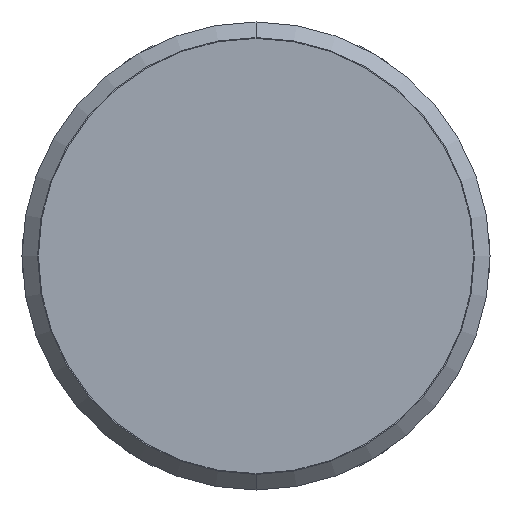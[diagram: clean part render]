
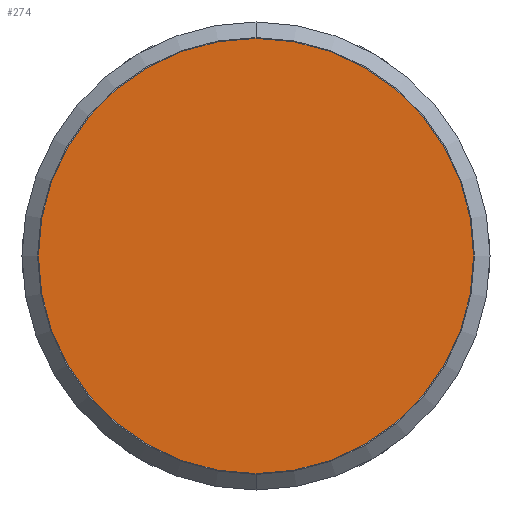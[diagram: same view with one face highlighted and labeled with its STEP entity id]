
A CAD part, front view. The second image highlights one B-rep face of the part: STEP entity #274.
In plain terms, the highlighted planar face has unit normal (0, -1, 0).
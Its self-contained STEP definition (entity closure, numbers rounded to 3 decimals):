
#38 = DIRECTION ( 'NONE',  ( 0., 1., 0. ) ) ;
#274 = ADVANCED_FACE ( 'NONE', ( #668 ), #1176, .F. ) ;
#344 = CARTESIAN_POINT ( 'NONE',  ( 0., 0., 0. ) ) ;
#360 = CIRCLE ( 'NONE', #1359, 13.95 ) ;
#374 = ORIENTED_EDGE ( 'NONE', *, *, #1301, .F. ) ;
#668 = FACE_OUTER_BOUND ( 'NONE', #733, .T. ) ;
#684 = DIRECTION ( 'NONE',  ( 0., 1., 0. ) ) ;
#710 = CIRCLE ( 'NONE', #1971, 13.95 ) ;
#714 = VERTEX_POINT ( 'NONE', #1676 ) ;
#733 = EDGE_LOOP ( 'NONE', ( #1664, #374 ) ) ;
#999 = CARTESIAN_POINT ( 'NONE',  ( 0., 0., 0. ) ) ;
#1004 = DIRECTION ( 'NONE',  ( 0., 1., 0. ) ) ;
#1032 = EDGE_CURVE ( 'NONE', #1332, #714, #360, .T. ) ;
#1138 = DIRECTION ( 'NONE',  ( 0., 0., 1. ) ) ;
#1176 = PLANE ( 'NONE',  #1746 ) ;
#1178 = CARTESIAN_POINT ( 'NONE',  ( 0., 0., -13.95 ) ) ;
#1301 = EDGE_CURVE ( 'NONE', #714, #1332, #710, .T. ) ;
#1332 = VERTEX_POINT ( 'NONE', #1178 ) ;
#1341 = DIRECTION ( 'NONE',  ( 0., 0., 1. ) ) ;
#1359 = AXIS2_PLACEMENT_3D ( 'NONE', #344, #38, #1138 ) ;
#1630 = CARTESIAN_POINT ( 'NONE',  ( 0., 0., 0. ) ) ;
#1664 = ORIENTED_EDGE ( 'NONE', *, *, #1032, .F. ) ;
#1676 = CARTESIAN_POINT ( 'NONE',  ( 0., 0., 13.95 ) ) ;
#1746 = AXIS2_PLACEMENT_3D ( 'NONE', #1630, #1004, #1341 ) ;
#1778 = DIRECTION ( 'NONE',  ( 0., 0., 1. ) ) ;
#1971 = AXIS2_PLACEMENT_3D ( 'NONE', #999, #684, #1778 ) ;
